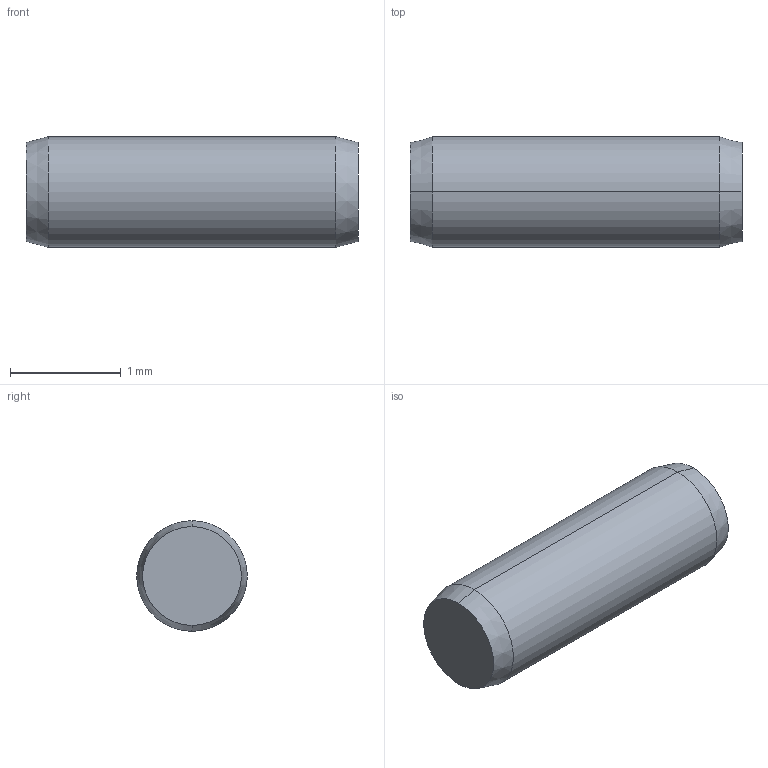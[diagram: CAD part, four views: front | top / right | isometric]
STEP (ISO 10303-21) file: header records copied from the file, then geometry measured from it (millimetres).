
FILE_DESCRIPTION (( 'STEP AP203' ), '1' );
FILE_NAME ('P1206.010-003 .step', '2017-06-14T07:49:43', ( 'User' ), ( '' ), 'SwSTEP 2.0', 'SolidWorks 2009', '' );
FILE_SCHEMA (( 'CONFIG_CONTROL_DESIGN' ));
Length unit declared in the file: millimetre
Products named in the file (1): P1206.010-003 
Bounding box: 3 x 1 x 1 mm (x, y, z)
Volume: 2.3 mm3; surface area: 10.7 mm2
Topology: 1 solids, 1 shells, 8 faces, 14 edges, 8 vertices
Faces by surface type: cone 4, cylinder 2, plane 2
Entity records: 271 total; most frequent: DIRECTION 40, CARTESIAN_POINT 31, ORIENTED_EDGE 28, AXIS2_PLACEMENT_3D 17, EDGE_CURVE 14, CIRCLE 8, FACE_OUTER_BOUND 8, VERTEX_POINT 8
